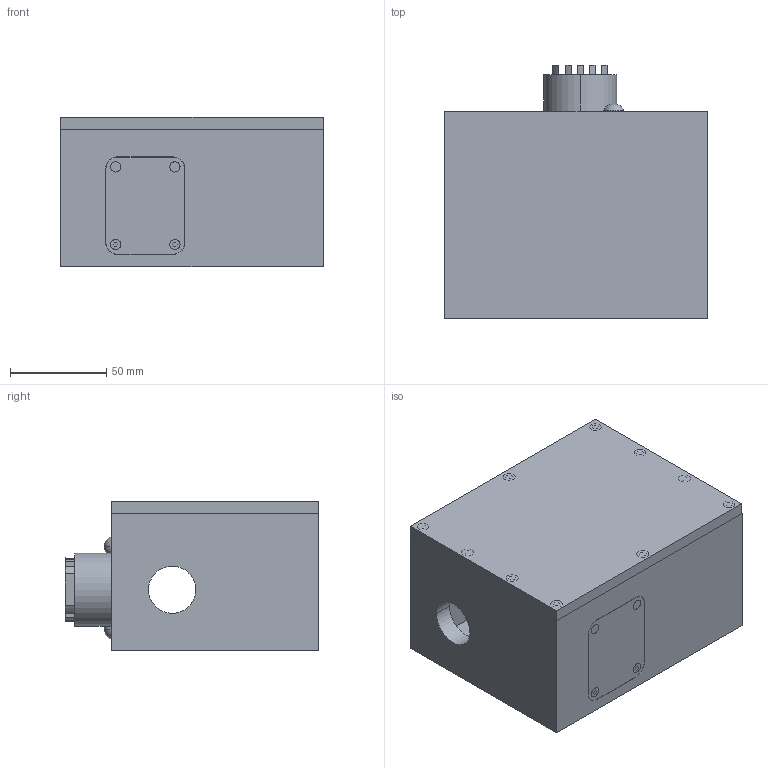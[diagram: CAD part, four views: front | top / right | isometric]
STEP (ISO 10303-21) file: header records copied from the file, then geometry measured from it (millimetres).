
FILE_DESCRIPTION (( 'STEP AP214' ), '1' );
FILE_NAME ('SSDP-19Aircooled.STEP', '2016-09-29T20:46:15', ( '' ), ( '' ), 'SwSTEP 2.0', 'SolidWorks 2016', '' );
FILE_SCHEMA (( 'AUTOMOTIVE_DESIGN' ));
Length unit declared in the file: inch
Products named in the file (1): SSDP-19Aircooled
Bounding box: 136.53 x 131.75 x 77.85 mm (x, y, z)
Volume: 503130.7 mm3; surface area: 152594.2 mm2
Topology: 37 solids, 37 shells, 957 faces, 2099 edges, 1269 vertices
Faces by surface type: plane 411, cylinder 287, cone 136, torus 123
Entity records: 26660 total; most frequent: DIRECTION 4874, CARTESIAN_POINT 4700, ORIENTED_EDGE 4130, EDGE_CURVE 2065, AXIS2_PLACEMENT_3D 1915, VERTEX_POINT 1269, EDGE_LOOP 1050, LINE 1044
